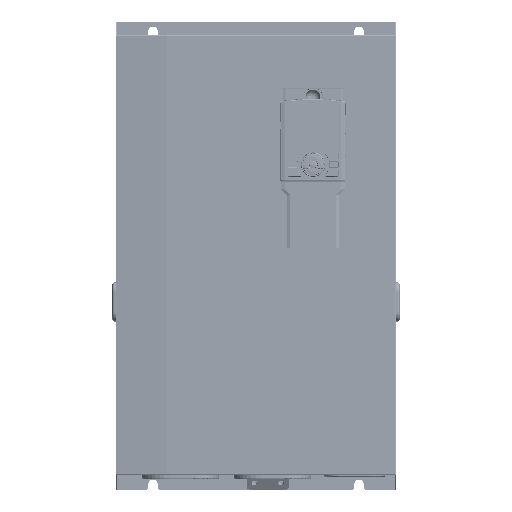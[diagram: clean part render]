
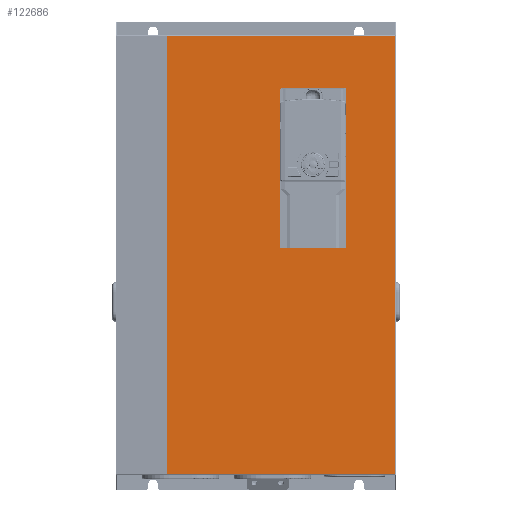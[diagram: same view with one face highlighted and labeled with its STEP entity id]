
A CAD part, front view. The second image highlights one B-rep face of the part: STEP entity #122686.
In plain terms, the highlighted planar face has unit normal (0, -1, 0) as drawn and (0, 1, 0) by its records, which use the part's own axes.
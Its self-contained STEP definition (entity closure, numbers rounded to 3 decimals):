
#121498=DIRECTION('',(0.,0.,-1.));
#121499=VECTOR('',#121498,168.5);
#121500=CARTESIAN_POINT('',(68.5,0.,-8.6));
#121501=LINE('',#121500,#121499);
#121502=CARTESIAN_POINT('',(67.,0.,-177.1));
#121503=DIRECTION('',(0.,1.,0.));
#121504=DIRECTION('',(1.,0.,0.));
#121505=AXIS2_PLACEMENT_3D('',#121502,#121503,#121504);
#121507=DIRECTION('',(-1.,0.,0.));
#121508=VECTOR('',#121507,67.);
#121509=CARTESIAN_POINT('',(67.,0.,-178.6));
#121510=LINE('',#121509,#121508);
#121511=CARTESIAN_POINT('',(0.,0.,-177.1));
#121512=DIRECTION('',(0.,1.,0.));
#121513=DIRECTION('',(0.,0.,-1.));
#121514=AXIS2_PLACEMENT_3D('',#121511,#121512,#121513);
#121516=DIRECTION('',(0.,0.,1.));
#121517=VECTOR('',#121516,168.5);
#121518=CARTESIAN_POINT('',(-1.5,0.,-177.1));
#121519=LINE('',#121518,#121517);
#121520=CARTESIAN_POINT('',(0.,0.,-8.6));
#121521=DIRECTION('',(0.,1.,0.));
#121522=DIRECTION('',(-1.,0.,0.));
#121523=AXIS2_PLACEMENT_3D('',#121520,#121521,#121522);
#121525=DIRECTION('',(1.,0.,0.));
#121526=VECTOR('',#121525,67.);
#121527=CARTESIAN_POINT('',(0.,0.,-7.1));
#121528=LINE('',#121527,#121526);
#121529=CARTESIAN_POINT('',(67.,0.,-8.6));
#121530=DIRECTION('',(0.,1.,0.));
#121531=DIRECTION('',(0.,0.,1.));
#121532=AXIS2_PLACEMENT_3D('',#121529,#121530,#121531);
#121550=DIRECTION('',(0.,0.,1.));
#121551=VECTOR('',#121550,467.6);
#121552=CARTESIAN_POINT('',(-122.448,0.,-233.8));
#121553=LINE('',#121552,#121551);
#121594=DIRECTION('',(1.,0.,0.));
#121595=VECTOR('',#121594,243.748);
#121596=CARTESIAN_POINT('',(-122.448,0.,233.8));
#121597=LINE('',#121596,#121595);
#121754=DIRECTION('',(0.,0.,-1.));
#121755=VECTOR('',#121754,467.6);
#121756=CARTESIAN_POINT('',(121.3,0.,233.8));
#121757=LINE('',#121756,#121755);
#121834=DIRECTION('',(-1.,0.,0.));
#121835=VECTOR('',#121834,243.748);
#121836=CARTESIAN_POINT('',(121.3,0.,-233.8));
#121837=LINE('',#121836,#121835);
#122412=CARTESIAN_POINT('',(-122.448,0.,-233.8));
#122413=CARTESIAN_POINT('',(-122.448,0.,233.8));
#122414=VERTEX_POINT('',#122412);
#122415=VERTEX_POINT('',#122413);
#122416=CARTESIAN_POINT('',(121.3,0.,-233.8));
#122417=VERTEX_POINT('',#122416);
#122418=CARTESIAN_POINT('',(121.3,0.,233.8));
#122419=VERTEX_POINT('',#122418);
#122420=CARTESIAN_POINT('',(68.5,0.,-8.6));
#122421=CARTESIAN_POINT('',(68.5,0.,-177.1));
#122422=VERTEX_POINT('',#122420);
#122423=VERTEX_POINT('',#122421);
#122424=CARTESIAN_POINT('',(67.,0.,-178.6));
#122425=VERTEX_POINT('',#122424);
#122426=CARTESIAN_POINT('',(0.,0.,-178.6));
#122427=VERTEX_POINT('',#122426);
#122428=CARTESIAN_POINT('',(-1.5,0.,-177.1));
#122429=VERTEX_POINT('',#122428);
#122430=CARTESIAN_POINT('',(-1.5,0.,-8.6));
#122431=VERTEX_POINT('',#122430);
#122432=CARTESIAN_POINT('',(0.,0.,-7.1));
#122433=VERTEX_POINT('',#122432);
#122434=CARTESIAN_POINT('',(67.,0.,-7.1));
#122435=VERTEX_POINT('',#122434);
#122653=CARTESIAN_POINT('',(0.,0.,0.));
#122654=DIRECTION('',(0.,1.,0.));
#122655=DIRECTION('',(1.,0.,0.));
#122656=AXIS2_PLACEMENT_3D('',#122653,#122654,#122655);
#122657=PLANE('',#122656);
#122659=ORIENTED_EDGE('',*,*,#122658,.F.);
#122661=ORIENTED_EDGE('',*,*,#122660,.F.);
#122663=ORIENTED_EDGE('',*,*,#122662,.F.);
#122665=ORIENTED_EDGE('',*,*,#122664,.F.);
#122666=EDGE_LOOP('',(#122659,#122661,#122663,#122665));
#122667=FACE_OUTER_BOUND('',#122666,.F.);
#122669=ORIENTED_EDGE('',*,*,#122668,.T.);
#122671=ORIENTED_EDGE('',*,*,#122670,.T.);
#122673=ORIENTED_EDGE('',*,*,#122672,.T.);
#122675=ORIENTED_EDGE('',*,*,#122674,.T.);
#122677=ORIENTED_EDGE('',*,*,#122676,.T.);
#122679=ORIENTED_EDGE('',*,*,#122678,.T.);
#122681=ORIENTED_EDGE('',*,*,#122680,.T.);
#122683=ORIENTED_EDGE('',*,*,#122682,.T.);
#122684=EDGE_LOOP('',(#122669,#122671,#122673,#122675,#122677,#122679,#122681,
#122683));
#122685=FACE_BOUND('',#122684,.F.);
#121506=CIRCLE('',#121505,1.5);
#121515=CIRCLE('',#121514,1.5);
#121524=CIRCLE('',#121523,1.5);
#121533=CIRCLE('',#121532,1.5);
#122658=EDGE_CURVE('',#122414,#122415,#121553,.T.);
#122660=EDGE_CURVE('',#122417,#122414,#121837,.T.);
#122662=EDGE_CURVE('',#122419,#122417,#121757,.T.);
#122664=EDGE_CURVE('',#122415,#122419,#121597,.T.);
#122668=EDGE_CURVE('',#122422,#122423,#121501,.T.);
#122670=EDGE_CURVE('',#122423,#122425,#121506,.T.);
#122672=EDGE_CURVE('',#122425,#122427,#121510,.T.);
#122674=EDGE_CURVE('',#122427,#122429,#121515,.T.);
#122676=EDGE_CURVE('',#122429,#122431,#121519,.T.);
#122678=EDGE_CURVE('',#122431,#122433,#121524,.T.);
#122680=EDGE_CURVE('',#122433,#122435,#121528,.T.);
#122682=EDGE_CURVE('',#122435,#122422,#121533,.T.);
#122686=ADVANCED_FACE('',(#122667,#122685),#122657,.T.);
